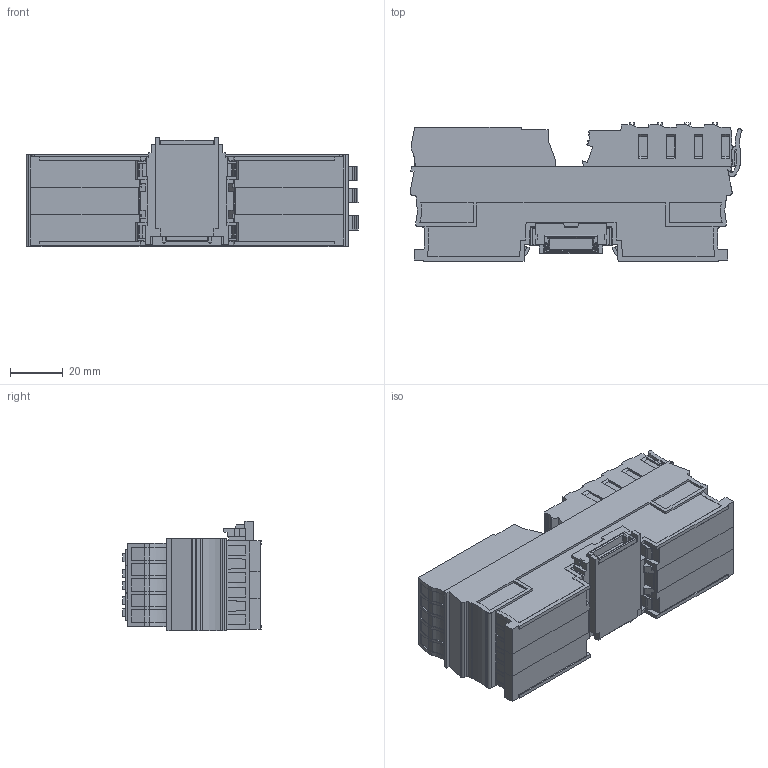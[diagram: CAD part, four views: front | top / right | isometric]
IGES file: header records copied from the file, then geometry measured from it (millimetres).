
Start section:  PTC IGES file: cu_rem-11120.igs
Global section: file name: cu_rem-11120.igs; native system: Creo Parametric by PTC Inc.; preprocessor: 2015380; author: dkendric; organization: Unknown; date: 20170511.103014; units: inch
Bounding box: 126.17 x 52.6 x 41.8 mm (x, y, z)
Surface area: 35419.4 mm2 (no closed solid volume)
Topology: 0 solids, 0 shells, 1729 faces, 10080 edges, 10080 vertices
Faces by surface type: bspline 1319, revolution 410
